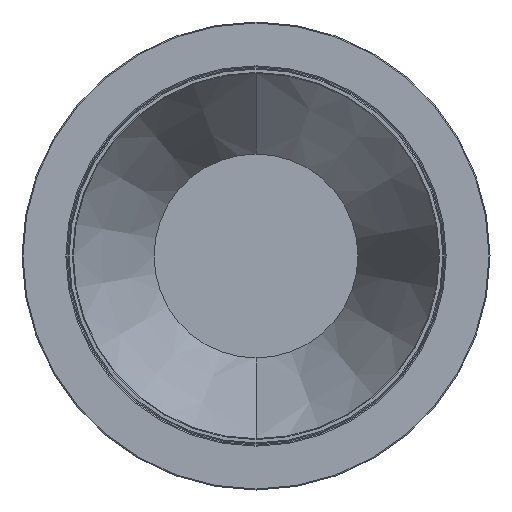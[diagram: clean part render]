
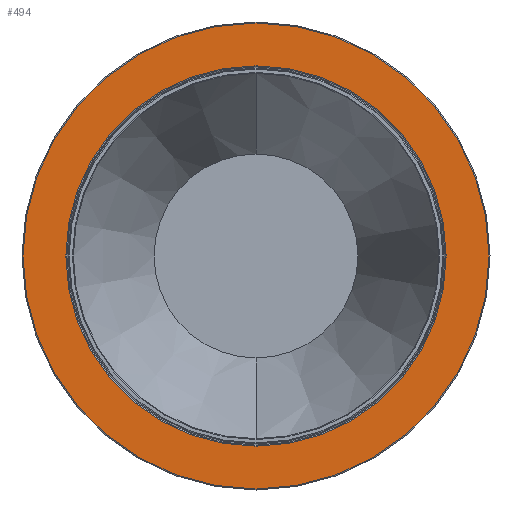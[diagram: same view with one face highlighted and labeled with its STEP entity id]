
A CAD part, front view. The second image highlights one B-rep face of the part: STEP entity #494.
In plain terms, the highlighted planar face has unit normal (0, -1, 0).
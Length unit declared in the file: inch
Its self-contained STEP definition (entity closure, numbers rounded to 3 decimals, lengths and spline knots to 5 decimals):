
#11 = VERTEX_POINT ( 'NONE', #25101 ) ;
#494 = ADVANCED_FACE ( 'NONE', ( #14133, #12354 ), #10450, .T. ) ;
#876 = CARTESIAN_POINT ( 'NONE',  ( 0., 0., 0. ) ) ;
#1047 = ORIENTED_EDGE ( 'NONE', *, *, #3521, .T. ) ;
#1612 = CARTESIAN_POINT ( 'NONE',  ( 0., 0., 1.84252 ) ) ;
#1668 = ORIENTED_EDGE ( 'NONE', *, *, #12878, .T. ) ;
#1816 = DIRECTION ( 'NONE',  ( 0., -1., 0. ) ) ;
#2067 = DIRECTION ( 'NONE',  ( 0., 1., 0. ) ) ;
#2268 = ORIENTED_EDGE ( 'NONE', *, *, #24670, .T. ) ;
#3521 = EDGE_CURVE ( 'NONE', #22046, #11, #23624, .T. ) ;
#4153 = CARTESIAN_POINT ( 'NONE',  ( -1.85039, 0., 0. ) ) ;
#5542 = AXIS2_PLACEMENT_3D ( 'NONE', #12317, #2067, #23264 ) ;
#8635 = CIRCLE ( 'NONE', #15624, 1.84252 ) ;
#8636 = EDGE_LOOP ( 'NONE', ( #2268, #16168 ) ) ;
#10450 = PLANE ( 'NONE',  #18845 ) ;
#10708 = DIRECTION ( 'NONE',  ( 0., 1., 0. ) ) ;
#11710 = EDGE_LOOP ( 'NONE', ( #1668, #1047 ) ) ;
#11948 = DIRECTION ( 'NONE',  ( 0., 0., -1. ) ) ;
#12317 = CARTESIAN_POINT ( 'NONE',  ( 0., 0., 0. ) ) ;
#12354 = FACE_OUTER_BOUND ( 'NONE', #8636, .T. ) ;
#12574 = CIRCLE ( 'NONE', #20797, 1.84252 ) ;
#12768 = DIRECTION ( 'NONE',  ( 0., 0., -1. ) ) ;
#12878 = EDGE_CURVE ( 'NONE', #11, #22046, #17788, .T. ) ;
#13317 = DIRECTION ( 'NONE',  ( 0., -1., 0. ) ) ;
#14133 = FACE_BOUND ( 'NONE', #11710, .T. ) ;
#15624 = AXIS2_PLACEMENT_3D ( 'NONE', #17812, #26263, #26133 ) ;
#16168 = ORIENTED_EDGE ( 'NONE', *, *, #23648, .T. ) ;
#17788 = CIRCLE ( 'NONE', #5542, 1.50367 ) ;
#17812 = CARTESIAN_POINT ( 'NONE',  ( 0., 0., 0. ) ) ;
#18845 = AXIS2_PLACEMENT_3D ( 'NONE', #4153, #1816, #11948 ) ;
#19086 = CARTESIAN_POINT ( 'NONE',  ( 0., 0., 1.50367 ) ) ;
#20797 = AXIS2_PLACEMENT_3D ( 'NONE', #876, #13317, #21639 ) ;
#21053 = VERTEX_POINT ( 'NONE', #25732 ) ;
#21639 = DIRECTION ( 'NONE',  ( 0., 0., -1. ) ) ;
#22046 = VERTEX_POINT ( 'NONE', #19086 ) ;
#23264 = DIRECTION ( 'NONE',  ( 0., 0., -1. ) ) ;
#23558 = CARTESIAN_POINT ( 'NONE',  ( 0., 0., 0. ) ) ;
#23624 = CIRCLE ( 'NONE', #25799, 1.50367 ) ;
#23648 = EDGE_CURVE ( 'NONE', #26789, #21053, #12574, .T. ) ;
#24670 = EDGE_CURVE ( 'NONE', #21053, #26789, #8635, .T. ) ;
#25101 = CARTESIAN_POINT ( 'NONE',  ( 0., 0., -1.50367 ) ) ;
#25732 = CARTESIAN_POINT ( 'NONE',  ( 0., 0., -1.84252 ) ) ;
#25799 = AXIS2_PLACEMENT_3D ( 'NONE', #23558, #10708, #12768 ) ;
#26133 = DIRECTION ( 'NONE',  ( 0., 0., -1. ) ) ;
#26263 = DIRECTION ( 'NONE',  ( 0., -1., 0. ) ) ;
#26789 = VERTEX_POINT ( 'NONE', #1612 ) ;
